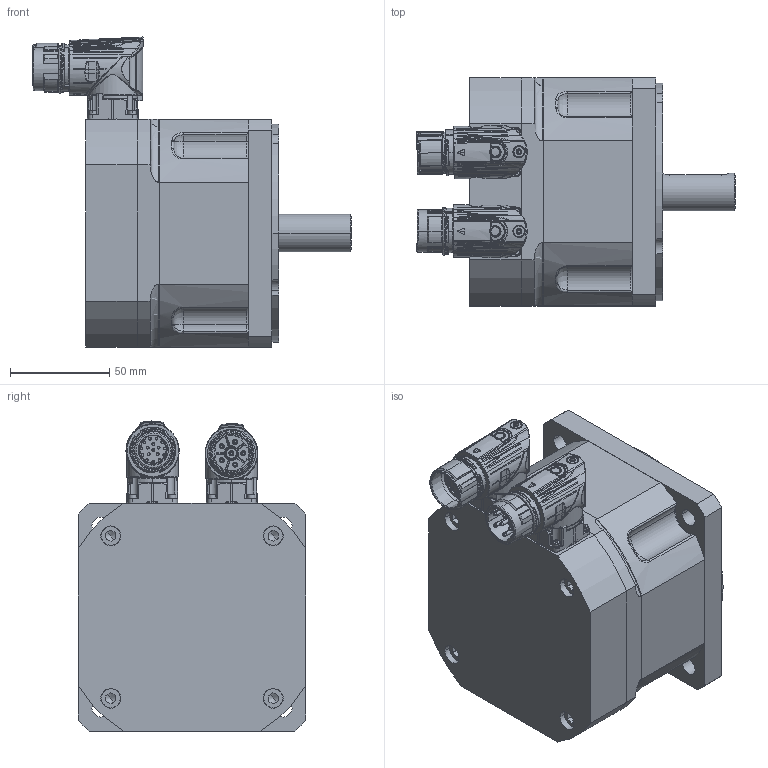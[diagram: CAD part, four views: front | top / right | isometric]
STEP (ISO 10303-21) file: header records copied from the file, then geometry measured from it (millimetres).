
FILE_DESCRIPTION(('CATIA V5 STEP Exchange'),'2;1');
FILE_NAME('C:\Documents and Settings\max\Documenti\sangallimotori\3d step\compatti\motore_DSM5_40.stp','2010-12-12T21:06:54+00:00',('none'),('none'),'CATIA Version 5 Release 10 (IN-8)','CATIA V5 STEP AP203',' none');
FILE_SCHEMA(('CONFIG_CONTROL_DESIGN'));
Assembly tree (27 placements, depth 0):
Bounding box: 160.71 x 115 x 156.43 mm (x, y, z)
Volume: 1142511.4 mm3; surface area: 172771.8 mm2
Topology: 23 solids, 28 shells, 4119 faces, 13959 edges, 9856 vertices
Faces by surface type: cylinder 1494, bspline 1330, plane 593, torus 352, cone 233, sphere 109, revolution 8
Entity records: 255119 total; most frequent: CARTESIAN_POINT 165051, ORIENTED_EDGE 25498, EDGE_CURVE 12806, VERTEX_POINT 9206, DIRECTION 8763, B_SPLINE_CURVE_WITH_KNOTS 7934, AXIS2_PLACEMENT_3D 4383, EDGE_LOOP 3827
